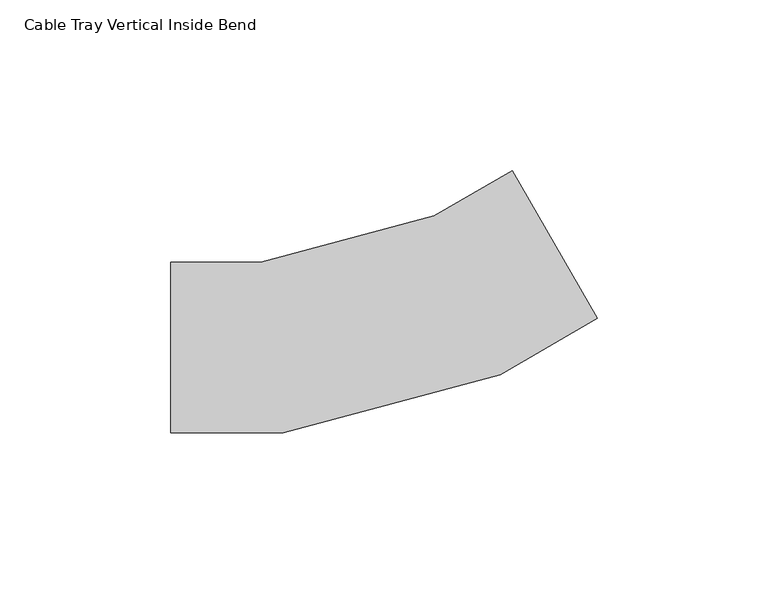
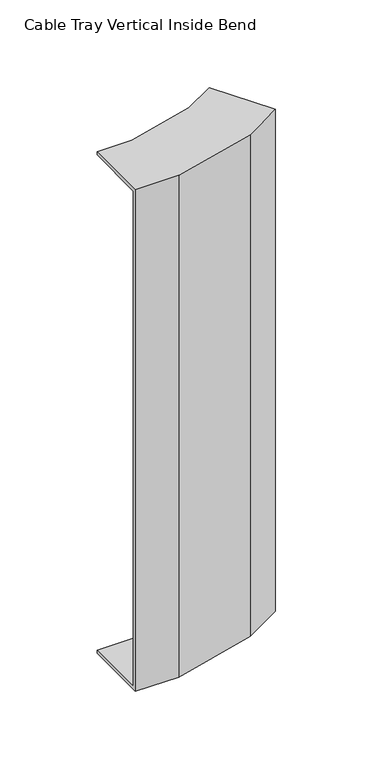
"""IFC4 building model written with IfcOpenShell, lengths in millimetres: cable carrier fitting geometry, Cable Tray Vertical Inside Bend : ELEC_SUB_CT_N2402."""

from ifc_helpers import new_model, si_unit, origin, place, context, project, spatial, faceted_brep, source, transform, mapped, element, save


def cable_tray_vertical_inside_bend_327bc21f(model_context):
    return source(origin(), model_context, "Body", "Brep", [
        faceted_brep([(-60.2885683, 25.0, 200.0), (-60.2885683, 25.0, 197.46), (-60.2885683, -22.46, 197.46), (-60.2885683, -22.46, -197.46), (-60.2885683, 25.0, -197.46), (-60.2885683, 25.0, -200.0), (-60.2885683, -25.0, -200.0), (-60.2885683, -25.0, 200.0), (39.7114317, 51.7949192, 200.0), (64.7114317, 8.4936491, 200.0), (64.7114317, 8.4936491, -200.0), (39.7114317, 51.7949192, -200.0), (39.7114317, 51.7949192, -197.46), (63.4414317, 10.6933536, -197.46), (63.4414317, 10.6933536, 197.46), (39.7114317, 51.7949192, 197.46), (-33.9580688, 25.0, 200.0), (-33.9580688, 25.0, 197.46), (16.9085502, 38.6296695, 197.46), (35.2274265, -5.59601, 197.46), (-27.7098412, -22.46, 197.46), (-27.7098412, -22.46, -197.46), (35.2274265, -5.59601, -197.46), (16.9085502, 38.6296695, -197.46), (-33.9580688, 25.0, -197.46), (-33.9580688, 25.0, -200.0), (16.9085502, 38.6296695, -200.0), (36.2078299, -7.9629131, -200.0), (-27.3754439, -25.0, -200.0), (-27.3754439, -25.0, 200.0), (36.2078299, -7.9629131, 200.0), (16.9085502, 38.6296695, 200.0)], [[[0, 1, 2, 3, 4, 5, 6, 7]], [[8, 9, 10, 11, 12, 13, 14, 15]], [[1, 0, 16, 17]], [[2, 1, 17, 18, 15, 14, 19, 20]], [[3, 2, 20, 21]], [[4, 3, 21, 22, 13, 12, 23, 24]], [[5, 4, 24, 25]], [[6, 5, 25, 26, 11, 10, 27, 28]], [[7, 6, 28, 29]], [[0, 7, 29, 30, 9, 8, 31, 16]], [[17, 16, 31, 18]], [[21, 20, 19, 22]], [[25, 24, 23, 26]], [[29, 28, 27, 30]], [[18, 31, 8, 15]], [[22, 19, 14, 13]], [[26, 23, 12, 11]], [[30, 27, 10, 9]]]),
    ])


if __name__ == "__main__":
    model = new_model("IFC4")
    model_context = context("Model", 3, world=origin())
    ifc_project = project(units=[si_unit("LENGTHUNIT", "METRE", prefix="MILLI")], contexts=[model_context])
    site = spatial("IfcSite", under=ifc_project)
    building = spatial("IfcBuilding", under=site)
    placement = place(None, origin())
    cable_tray_vertical_inside_bend_shape = cable_tray_vertical_inside_bend_327bc21f(model_context)
    element("IfcCableCarrierFitting", 1, ObjectType="Cable Tray Vertical Inside Bend : ELEC_SUB_CT_N2402", at=placement, inside=building, context=model_context, shape_type="MappedRepresentation", body=[
        mapped(cable_tray_vertical_inside_bend_shape, transform((0.0, 0.0, 0.0), x_axis=(1.0, 0.0, 0.0), y_axis=(0.0, 1.0, 0.0), z_axis=(0.0, 0.0, 1.0))),
    ])
    save(model, "model.ifc")
